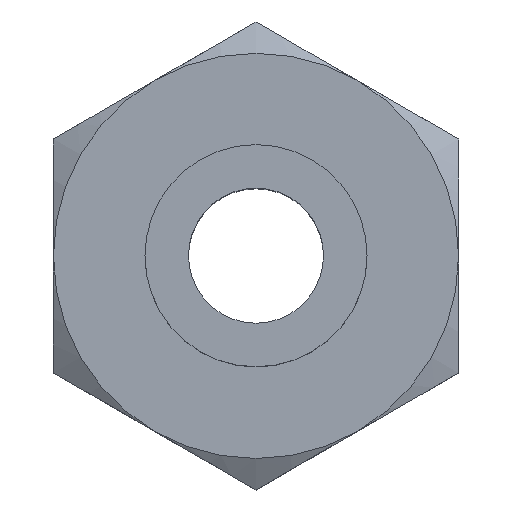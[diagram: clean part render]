
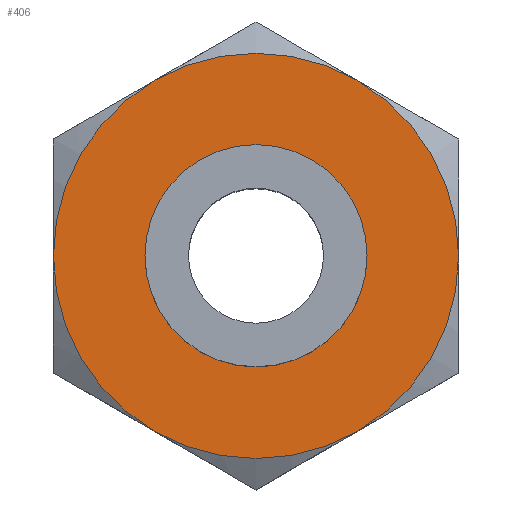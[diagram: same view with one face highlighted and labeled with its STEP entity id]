
A CAD part, top view. The second image highlights one B-rep face of the part: STEP entity #406.
In plain terms, the highlighted planar face has unit normal (0, 0, 1).
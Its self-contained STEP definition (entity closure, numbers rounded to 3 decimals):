
#15=FACE_BOUND('',#106,.T.);
#19=PLANE('',#470);
#79=FACE_OUTER_BOUND('',#105,.T.);
#105=EDGE_LOOP('',(#305,#306,#307,#308,#309,#310));
#106=EDGE_LOOP('',(#311,#312));
#149=CIRCLE('',#459,12.);
#150=CIRCLE('',#461,12.);
#151=CIRCLE('',#463,12.);
#152=CIRCLE('',#465,12.);
#153=CIRCLE('',#467,12.);
#154=CIRCLE('',#469,12.);
#155=CIRCLE('',#471,6.579);
#156=CIRCLE('',#472,6.579);
#179=VERTEX_POINT('',#673);
#180=VERTEX_POINT('',#677);
#181=VERTEX_POINT('',#683);
#183=VERTEX_POINT('',#693);
#186=VERTEX_POINT('',#704);
#187=VERTEX_POINT('',#713);
#190=VERTEX_POINT('',#732);
#191=VERTEX_POINT('',#733);
#223=EDGE_CURVE('',#180,#179,#149,.T.);
#225=EDGE_CURVE('',#181,#180,#150,.T.);
#228=EDGE_CURVE('',#183,#181,#151,.T.);
#232=EDGE_CURVE('',#179,#186,#152,.T.);
#234=EDGE_CURVE('',#187,#183,#153,.T.);
#238=EDGE_CURVE('',#186,#187,#154,.T.);
#239=EDGE_CURVE('',#190,#191,#155,.T.);
#240=EDGE_CURVE('',#191,#190,#156,.T.);
#305=ORIENTED_EDGE('',*,*,#232,.F.);
#306=ORIENTED_EDGE('',*,*,#223,.F.);
#307=ORIENTED_EDGE('',*,*,#225,.F.);
#308=ORIENTED_EDGE('',*,*,#228,.F.);
#309=ORIENTED_EDGE('',*,*,#234,.F.);
#310=ORIENTED_EDGE('',*,*,#238,.F.);
#311=ORIENTED_EDGE('',*,*,#239,.T.);
#312=ORIENTED_EDGE('',*,*,#240,.T.);
#406=ADVANCED_FACE('',(#79,#15),#19,.F.);
#459=AXIS2_PLACEMENT_3D('',#681,#534,#535);
#461=AXIS2_PLACEMENT_3D('',#688,#538,#539);
#463=AXIS2_PLACEMENT_3D('',#698,#542,#543);
#465=AXIS2_PLACEMENT_3D('',#711,#546,#547);
#467=AXIS2_PLACEMENT_3D('',#718,#550,#551);
#469=AXIS2_PLACEMENT_3D('',#730,#554,#555);
#470=AXIS2_PLACEMENT_3D('',#731,#556,#557);
#471=AXIS2_PLACEMENT_3D('',#734,#558,#559);
#472=AXIS2_PLACEMENT_3D('',#735,#560,#561);
#534=DIRECTION('center_axis',(0.,0.,-1.));
#535=DIRECTION('ref_axis',(1.,0.,0.));
#538=DIRECTION('center_axis',(0.,0.,-1.));
#539=DIRECTION('ref_axis',(1.,0.,0.));
#542=DIRECTION('center_axis',(0.,0.,-1.));
#543=DIRECTION('ref_axis',(1.,0.,0.));
#546=DIRECTION('center_axis',(0.,0.,-1.));
#547=DIRECTION('ref_axis',(1.,0.,0.));
#550=DIRECTION('center_axis',(0.,0.,-1.));
#551=DIRECTION('ref_axis',(1.,0.,0.));
#554=DIRECTION('center_axis',(0.,0.,-1.));
#555=DIRECTION('ref_axis',(1.,0.,0.));
#556=DIRECTION('center_axis',(0.,0.,-1.));
#557=DIRECTION('ref_axis',(-1.,0.,0.));
#558=DIRECTION('center_axis',(0.,0.,-1.));
#559=DIRECTION('ref_axis',(1.,0.,0.));
#560=DIRECTION('center_axis',(0.,0.,-1.));
#561=DIRECTION('ref_axis',(1.,0.,0.));
#673=CARTESIAN_POINT('',(6.,-10.392,15.5));
#677=CARTESIAN_POINT('',(12.,0.,15.5));
#681=CARTESIAN_POINT('Origin',(0.,0.,15.5));
#683=CARTESIAN_POINT('',(6.,10.392,15.5));
#688=CARTESIAN_POINT('Origin',(0.,0.,15.5));
#693=CARTESIAN_POINT('',(-6.,10.392,15.5));
#698=CARTESIAN_POINT('Origin',(0.,0.,15.5));
#704=CARTESIAN_POINT('',(-6.,-10.392,15.5));
#711=CARTESIAN_POINT('Origin',(0.,0.,15.5));
#713=CARTESIAN_POINT('',(-12.,0.,15.5));
#718=CARTESIAN_POINT('Origin',(0.,0.,15.5));
#730=CARTESIAN_POINT('Origin',(0.,0.,15.5));
#731=CARTESIAN_POINT('Origin',(0.,-6.579,15.5));
#732=CARTESIAN_POINT('',(0.,-6.579,15.5));
#733=CARTESIAN_POINT('',(0.,6.579,15.5));
#734=CARTESIAN_POINT('Origin',(0.,0.,15.5));
#735=CARTESIAN_POINT('Origin',(0.,0.,15.5));
